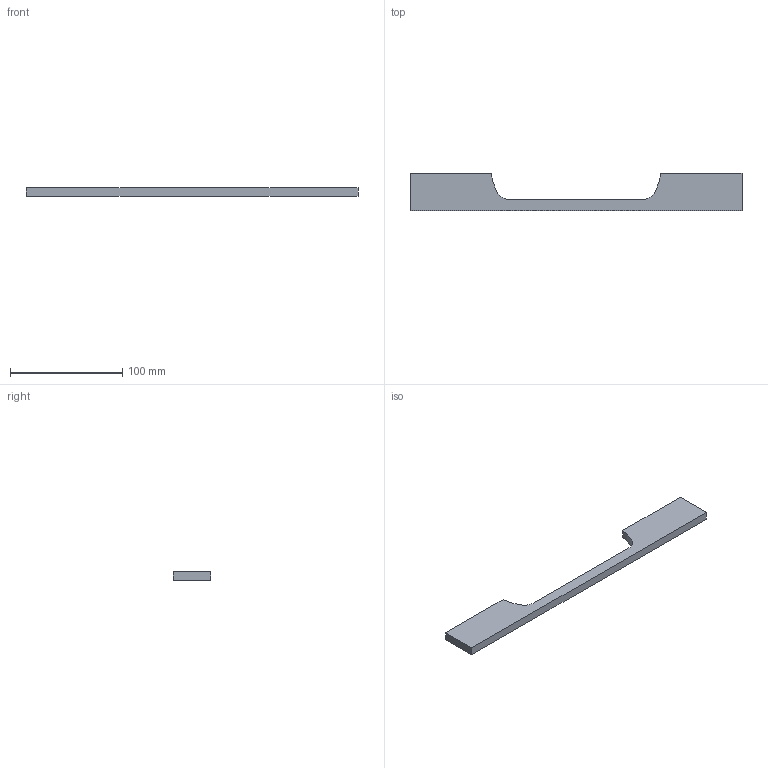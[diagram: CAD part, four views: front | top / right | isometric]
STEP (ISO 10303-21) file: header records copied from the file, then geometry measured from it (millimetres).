
FILE_DESCRIPTION( ( '' ), '1' );
FILE_NAME( 'D:/1.AUTOCAD EXPORT/Group 10/sheet_10_1/9071929.stp', '2013-10-22T04:21:48', ( '' ), ( '' ), ' ', ' ', ' ' );
FILE_SCHEMA( ( 'automotive_design' ) );
Length unit declared in the file: millimetre
Products named in the file (1): 1
Bounding box: 296 x 33 x 7.5 mm (x, y, z)
Volume: 48086.6 mm3; surface area: 18489.5 mm2
Topology: 1 solids, 1 shells, 24 faces, 54 edges, 36 vertices
Faces by surface type: cylinder 12, plane 12
Entity records: 1348 total; most frequent: DIRECTION 128, STYLED_ITEM 115, PRESENTATION_STYLE_ASSIGNMENT 115, CARTESIAN_POINT 115, COLOUR_RGB 115, ORIENTED_EDGE 108, EDGE_CURVE 54, CURVE_STYLE 54
